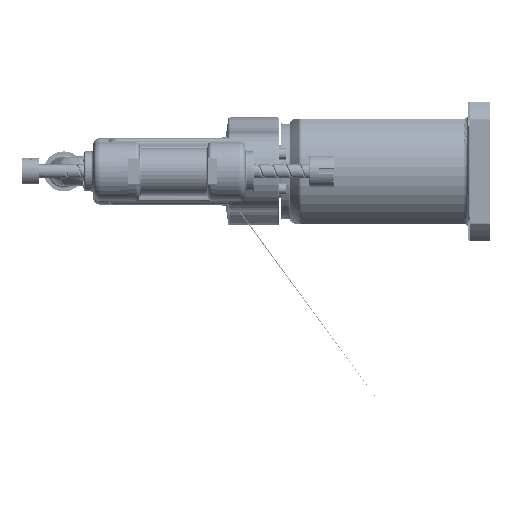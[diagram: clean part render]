
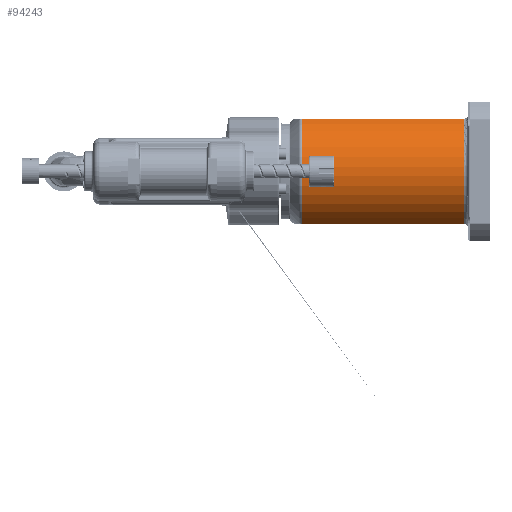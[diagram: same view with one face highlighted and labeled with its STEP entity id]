
A CAD part, left-side view. The second image highlights one B-rep face of the part: STEP entity #94243.
In plain terms, the highlighted cylindrical face has radius 67.5 mm (diameter 135 mm), a partial arc.
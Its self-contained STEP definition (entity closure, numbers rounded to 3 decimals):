
#22275 = CARTESIAN_POINT ( 'NONE',  ( -31.108, 30., -59.904 ) ) ;
#22955 = AXIS2_PLACEMENT_3D ( 'NONE', #91368, #78807, #24586 ) ;
#24586 = DIRECTION ( 'NONE',  ( -1., 0., 0. ) ) ;
#26247 = CARTESIAN_POINT ( 'NONE',  ( -31.108, 230., -59.904 ) ) ;
#29736 = ORIENTED_EDGE ( 'NONE', *, *, #139628, .T. ) ;
#33632 = CIRCLE ( 'NONE', #72487, 67.5 ) ;
#33885 = CARTESIAN_POINT ( 'NONE',  ( 0., 30., 0. ) ) ;
#38176 = EDGE_CURVE ( 'NONE', #173205, #138141, #151989, .T. ) ;
#43053 = CARTESIAN_POINT ( 'NONE',  ( 0., 215.929, 0. ) ) ;
#43664 = DIRECTION ( 'NONE',  ( 0., -1., 0. ) ) ;
#48308 = AXIS2_PLACEMENT_3D ( 'NONE', #43053, #43664, #56700 ) ;
#49919 = EDGE_CURVE ( 'NONE', #138141, #132821, #122258, .T. ) ;
#50813 = CARTESIAN_POINT ( 'NONE',  ( -31.108, 30., 59.904 ) ) ;
#56700 = DIRECTION ( 'NONE',  ( -1., 0., 0. ) ) ;
#58756 = CARTESIAN_POINT ( 'NONE',  ( -31.108, 230., 59.904 ) ) ;
#72177 = VERTEX_POINT ( 'NONE', #50813 ) ;
#72487 = AXIS2_PLACEMENT_3D ( 'NONE', #33885, #156734, #157904 ) ;
#78807 = DIRECTION ( 'NONE',  ( 0., 1., 0. ) ) ;
#79930 = DIRECTION ( 'NONE',  ( 0., -1., 0. ) ) ;
#90858 = EDGE_LOOP ( 'NONE', ( #106613, #142375, #29736, #161577 ) ) ;
#91368 = CARTESIAN_POINT ( 'NONE',  ( 0., 230., 0. ) ) ;
#91384 = VECTOR ( 'NONE', #122510, 1000. ) ;
#94243 = ADVANCED_FACE ( 'NONE', ( #101375 ), #122604, .T. ) ;
#97712 = CARTESIAN_POINT ( 'NONE',  ( -31.108, 215.929, 59.904 ) ) ;
#101375 = FACE_OUTER_BOUND ( 'NONE', #90858, .T. ) ;
#106288 = LINE ( 'NONE', #58756, #91384 ) ;
#106613 = ORIENTED_EDGE ( 'NONE', *, *, #38176, .T. ) ;
#111594 = CARTESIAN_POINT ( 'NONE',  ( -31.108, 215.929, -59.904 ) ) ;
#122258 = LINE ( 'NONE', #26247, #124474 ) ;
#122510 = DIRECTION ( 'NONE',  ( 0., 1., 0. ) ) ;
#122604 = CYLINDRICAL_SURFACE ( 'NONE', #22955, 67.5 ) ;
#124474 = VECTOR ( 'NONE', #79930, 1000. ) ;
#132821 = VERTEX_POINT ( 'NONE', #22275 ) ;
#136489 = EDGE_CURVE ( 'NONE', #72177, #173205, #106288, .T. ) ;
#138141 = VERTEX_POINT ( 'NONE', #111594 ) ;
#139628 = EDGE_CURVE ( 'NONE', #132821, #72177, #33632, .T. ) ;
#142375 = ORIENTED_EDGE ( 'NONE', *, *, #49919, .T. ) ;
#151989 = CIRCLE ( 'NONE', #48308, 67.5 ) ;
#156734 = DIRECTION ( 'NONE',  ( 0., 1., 0. ) ) ;
#157904 = DIRECTION ( 'NONE',  ( 1., 0., 0. ) ) ;
#161577 = ORIENTED_EDGE ( 'NONE', *, *, #136489, .T. ) ;
#173205 = VERTEX_POINT ( 'NONE', #97712 ) ;
